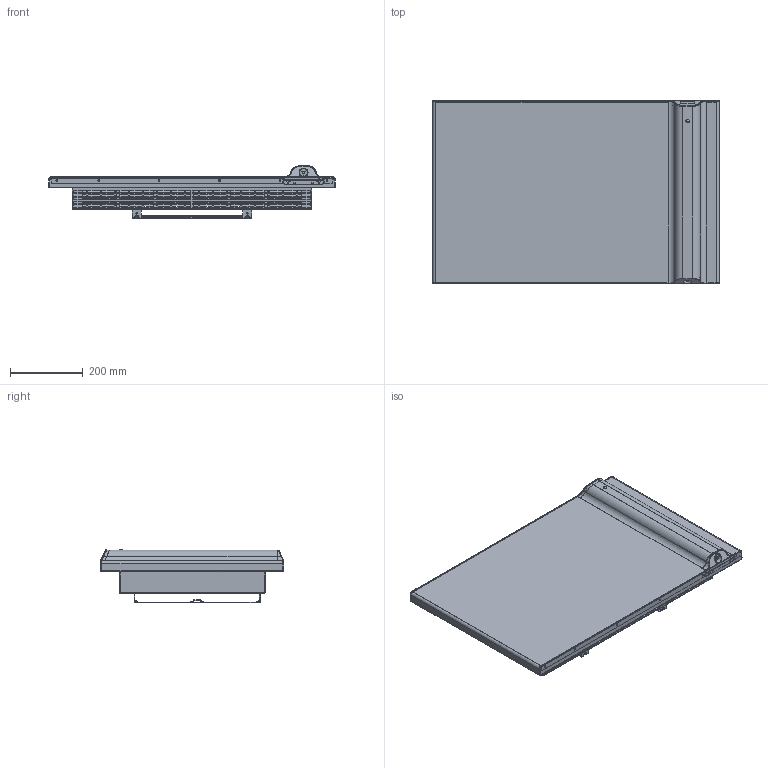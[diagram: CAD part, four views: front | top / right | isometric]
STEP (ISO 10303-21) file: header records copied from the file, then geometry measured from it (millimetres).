
FILE_DESCRIPTION(('FreeCAD Model'),'2;1');
FILE_NAME('Open CASCADE Shape Model','2026-06-05T09:58:31',(''),(''), 'Open CASCADE STEP processor 7.8','FreeCAD','Unknown');
FILE_SCHEMA(('AUTOMOTIVE_DESIGN { 1 0 10303 214 1 1 1 1 }'));
Length unit declared in the file: millimetre
Products named in the file (16): Unnamed; KLI_POSTERIORE_1000W; KLI_GR-COMANDI_ASM; KLI_PIR-BOARD; KLI_TAPPO-INFERIORE; KLI_ANTERIORE_1000W; KLI_GR-PROFILO-SUPERIO_1000W_ASM; KLI_PROFILO-SUPERIORE_1000W; KLI_COPERCHIO; KLI_DISPLAY-BOARD; KLI_ADESIVO; KLI_GR-SUPPORTO-MURALE_MIN_ASM; KLI_TRAVERSA-SUPPORTO_MIN; KLI_GR-ASTA-SUPPORTO-MURALE_ASM; KLI_SUPPORTO-MURALE; KLI_GR-ASTA-SUPPORTO-MURALE_ASM001
Assembly tree (16 placements, depth 4):
  Unnamed
    KLI_POSTERIORE_1000W
    KLI_GR-COMANDI_ASM
      KLI_PIR-BOARD
    KLI_TAPPO-INFERIORE
    KLI_ANTERIORE_1000W
    KLI_GR-PROFILO-SUPERIO_1000W_ASM
      KLI_PROFILO-SUPERIORE_1000W
    KLI_COPERCHIO
    KLI_DISPLAY-BOARD
    KLI_ADESIVO
    KLI_GR-SUPPORTO-MURALE_MIN_ASM
      KLI_TRAVERSA-SUPPORTO_MIN
      KLI_GR-ASTA-SUPPORTO-MURALE_ASM
        KLI_SUPPORTO-MURALE
      KLI_GR-ASTA-SUPPORTO-MURALE_ASM001
        KLI_SUPPORTO-MURALE
Bounding box: 790 x 504.4 x 147 mm (x, y, z)
Volume: 838989.4 mm3; surface area: 2166901.9 mm2
Topology: 11 solids, 11 shells, 2428 faces, 6220 edges, 3805 vertices
Faces by surface type: plane 1408, cylinder 578, bspline 194, torus 142, cone 61, sphere 44, extrusion 1
Entity records: 81506 total; most frequent: CARTESIAN_POINT 25303, ORIENTED_EDGE 11844, DIRECTION 10924, EDGE_CURVE 5922, VECTOR 4082, LINE 4081, VERTEX_POINT 3636, AXIS2_PLACEMENT_3D 3421
